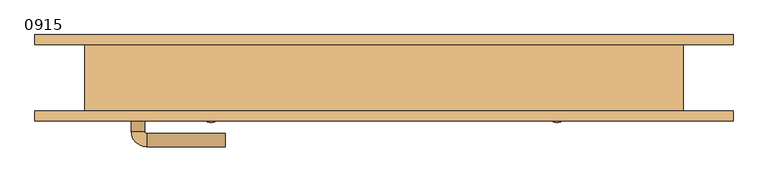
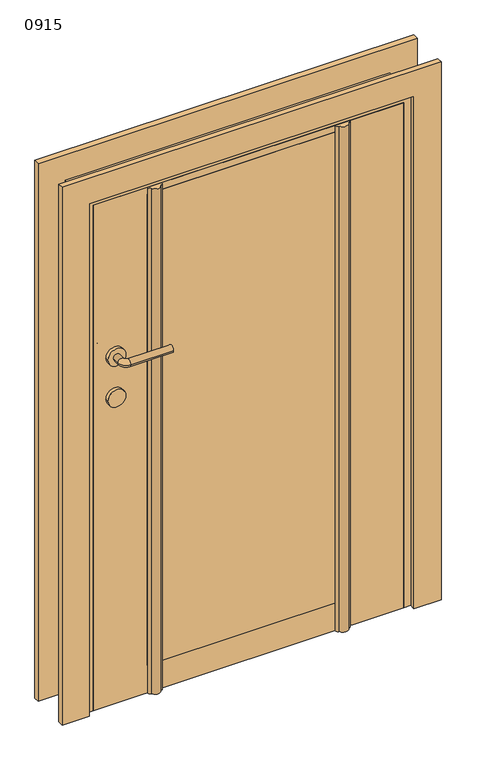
"""IFC4 building model written with IfcOpenShell, lengths in millimetres: door geometry, 单扇平开门-木门 : 0915."""

from ifc_helpers import new_model, si_unit, point, frame, frame_2d, origin, origin_with_axes, place, context, project, spatial, polyline, circle_curve, ellipse_curve, trimmed, segment, composite_curve, outline, extrude, faceted_brep, source, transform, mapped, element, save
from ifc_brep_helpers import plane_surface, cylinder_surface, revolved_surface, advanced_brep


def door_0915_0a5b4c04(model_context):
    return source(origin(), model_context, "Body", "SolidModel", [
        extrude(outline(composite_curve([segment(trimmed(circle_curve(frame_2d((900.0, -370.0)), 25.0), [point((900.0, -345.0))], [point((900.0, -395.0))], False, "CARTESIAN"), True, "CONTINUOUS"), segment(trimmed(circle_curve(frame_2d((900.0, -370.0)), 25.0), [point((900.0, -395.0))], [point((900.0, -345.0))], False, "CARTESIAN"), True, "CONTINUOUS")], self_intersect=False)), frame((0.0, -15.0, 0.0), z_axis=(0.0, 1.0, 0.0), x_axis=(0.0, 0.0, 1.0)), (0.0, 0.0, 1.0), 10.0),
        extrude(outline(composite_curve([segment(trimmed(circle_curve(frame_2d((900.0, -370.0)), 25.0), [point((900.0, -345.0))], [point((900.0, -395.0))], False, "CARTESIAN"), True, "CONTINUOUS"), segment(trimmed(circle_curve(frame_2d((900.0, -370.0)), 25.0), [point((900.0, -395.0))], [point((900.0, -345.0))], False, "CARTESIAN"), True, "CONTINUOUS")], self_intersect=False)), frame((0.0, -60.0, 0.0), z_axis=(0.0, 1.0, 0.0), x_axis=(0.0, 0.0, 1.0)), (0.0, 0.0, 1.0), 10.0),
        advanced_brep(
        [(-380.0, -5.0, 1020.0), (-360.0, -5.0, 1020.0), (-380.0, 15.613355, 1020.0), (-360.0, 15.613355, 1020.0), (-238.419036, 38.580964, 1020.0), (-238.419036, 18.580964, 1020.0), (-357.0323911, 18.580964, 1020.0), (-357.0323911, 38.580964, 1020.0)],
        [
            (0, 1, circle_curve(frame((-370.0, -5.0, 1020.0), z_axis=(0.0, -1.0, 0.0), x_axis=(1.0, 0.0, 0.0)), 10.0)),
            (1, 0, circle_curve(frame((-370.0, -5.0, 1020.0), z_axis=(0.0, -1.0, 0.0), x_axis=(1.0, 0.0, 0.0)), 10.0)),
            (0, 2),
            (2, 3, circle_curve(frame((-370.0, 15.613355, 1020.0), z_axis=(0.0, -1.0, 0.0), x_axis=(1.0, 0.0, 0.0)), 10.0)),
            (3, 1),
            (3, 2, circle_curve(frame((-370.0, 15.613355, 1020.0), z_axis=(0.0, -1.0, 0.0), x_axis=(1.0, 0.0, 0.0)), 10.0)),
            (4, 5, circle_curve(frame((-238.419036, 28.580964, 1020.0), z_axis=(1.0, 0.0, 0.0), x_axis=(0.0, -1.0, 0.0)), 10.0)),
            (5, 4, circle_curve(frame((-238.419036, 28.580964, 1020.0), z_axis=(1.0, 0.0, 0.0), x_axis=(0.0, -1.0, 0.0)), 10.0)),
            (6, 7, circle_curve(frame((-357.0323911, 28.580964, 1020.0), z_axis=(-1.0, 0.0, 0.0), x_axis=(0.0, -1.0, 0.0)), 10.0)),
            (7, 2, circle_curve(frame((-357.0323911, 15.613355, 1020.0), z_axis=(0.0, 0.0, 1.0), x_axis=(-1.0, 0.0, 0.0)), 22.9676089)),
            (3, 6, circle_curve(frame((-357.0323911, 15.613355, 1020.0), z_axis=(0.0, 0.0, -1.0), x_axis=(-1.0, 0.0, 0.0)), 2.9676089)),
            (7, 6, circle_curve(frame((-357.0323911, 28.580964, 1020.0), z_axis=(-1.0, 0.0, 0.0), x_axis=(0.0, -1.0, 0.0)), 10.0)),
            (6, 5),
            (4, 7),
        ],
        [
            plane_surface(frame((-370.0, -5.0, 900.0), z_axis=(0.0, -1.0, 0.0), x_axis=(0.0, 0.0, 1.0))),
            cylinder_surface(frame((-370.0, -5.0, 1020.0), z_axis=(0.0, -1.0, 0.0), x_axis=(1.0, 0.0, 0.0)), 10.0),
            plane_surface(frame((-238.419036, 28.580964, 900.0), z_axis=(1.0, 0.0, 0.0), x_axis=(0.0, 0.0, 1.0))),
            revolved_surface(trimmed(ellipse_curve(frame((-370.0, 15.613355, 1020.0), z_axis=(0.0, 1.0, 0.0), x_axis=(1.0, 0.0, 0.0)), 10.0, 10.0), [point((-380.0, 15.613355, 1020.0))], [point((-360.0, 15.613355, 1020.0))], True, "CARTESIAN"), (-357.0323911, 15.613355, 900.0), (0.0, 0.0, 1.0)),
            revolved_surface(trimmed(ellipse_curve(frame((-370.0, 15.613355, 1020.0), z_axis=(0.0, 1.0, 0.0), x_axis=(1.0, 0.0, 0.0)), 10.0, 10.0), [point((-360.0, 15.613355, 1020.0))], [point((-380.0, 15.613355, 1020.0))], True, "CARTESIAN"), (-357.0323911, 15.613355, 900.0), (0.0, 0.0, 1.0)),
            cylinder_surface(frame((-357.0323911, 28.580964, 1020.0), z_axis=(-1.0, 0.0, 0.0), x_axis=(0.0, -1.0, 0.0)), 10.0),
        ],
        [
            (0, [[1, 2]]),
            (1, [[3, 4, 5, -1]]),
            (1, [[-5, 6, -3, -2]]),
            (2, [[7, 8]]),
            (3, [[9, 10, -6, 11]]),
            (4, [[12, -11, -4, -10]]),
            (5, [[13, -7, 14, -9]]),
            (5, [[-14, -8, -13, -12]]),
        ],
    ),
        extrude(outline(composite_curve([segment(trimmed(circle_curve(frame_2d((1020.0, -370.0)), 25.0), [point((1020.0, -345.0))], [point((1020.0, -395.0))], False, "CARTESIAN"), True, "CONTINUOUS"), segment(trimmed(circle_curve(frame_2d((1020.0, -370.0)), 25.0), [point((1020.0, -395.0))], [point((1020.0, -345.0))], False, "CARTESIAN"), True, "CONTINUOUS")], self_intersect=False)), frame((0.0, -15.0, 0.0), z_axis=(0.0, 1.0, 0.0), x_axis=(0.0, 0.0, 1.0)), (0.0, 0.0, 1.0), 10.0),
        advanced_brep(
        [(-360.0, -60.0, 1020.0), (-380.0, -60.0, 1020.0), (-380.0, -80.6133551, 1020.0), (-360.0, -80.6133551, 1020.0), (-238.419036, -83.580964, 1020.0), (-238.419036, -103.580964, 1020.0), (-357.0323911, -103.580964, 1020.0), (-357.0323911, -83.580964, 1020.0)],
        [
            (0, 1, circle_curve(frame((-370.0, -60.0, 1020.0), z_axis=(0.0, 1.0, 0.0), x_axis=(-1.0, 0.0, 0.0)), 10.0)),
            (1, 0, circle_curve(frame((-370.0, -60.0, 1020.0), z_axis=(0.0, 1.0, 0.0), x_axis=(-1.0, 0.0, 0.0)), 10.0)),
            (1, 2),
            (2, 3, circle_curve(frame((-370.0, -80.6133551, 1020.0), z_axis=(0.0, 1.0, 0.0), x_axis=(-1.0, 0.0, 0.0)), 10.0)),
            (3, 0),
            (3, 2, circle_curve(frame((-370.0, -80.6133551, 1020.0), z_axis=(0.0, 1.0, 0.0), x_axis=(-1.0, 0.0, 0.0)), 10.0)),
            (4, 5, circle_curve(frame((-238.419036, -93.580964, 1020.0), z_axis=(1.0, 0.0, 0.0), x_axis=(0.0, -1.0, 0.0)), 10.0)),
            (5, 4, circle_curve(frame((-238.419036, -93.580964, 1020.0), z_axis=(1.0, 0.0, 0.0), x_axis=(0.0, -1.0, 0.0)), 10.0)),
            (6, 7, circle_curve(frame((-357.0323911, -93.580964, 1020.0), z_axis=(-1.0, 0.0, 0.0), x_axis=(0.0, -1.0, 0.0)), 10.0)),
            (7, 3, circle_curve(frame((-357.0323911, -80.6133551, 1020.0), z_axis=(0.0, 0.0, -1.0), x_axis=(-1.0, 0.0, 0.0)), 2.9676089)),
            (2, 6, circle_curve(frame((-357.0323911, -80.6133551, 1020.0), z_axis=(0.0, 0.0, 1.0), x_axis=(-1.0, 0.0, 0.0)), 22.9676089)),
            (7, 6, circle_curve(frame((-357.0323911, -93.580964, 1020.0), z_axis=(-1.0, 0.0, 0.0), x_axis=(0.0, -1.0, 0.0)), 10.0)),
            (6, 5),
            (4, 7),
        ],
        [
            plane_surface(frame((-370.0, -60.0, 900.0), z_axis=(0.0, 1.0, 0.0), x_axis=(0.0, 0.0, 1.0))),
            cylinder_surface(frame((-370.0, -60.0, 1020.0), z_axis=(0.0, 1.0, 0.0), x_axis=(-1.0, 0.0, 0.0)), 10.0),
            plane_surface(frame((-238.419036, -93.580964, 900.0), z_axis=(1.0, 0.0, 0.0), x_axis=(0.0, 0.0, 1.0))),
            revolved_surface(trimmed(ellipse_curve(frame((-370.0, -80.6133551, 1020.0), z_axis=(0.0, -1.0, 0.0), x_axis=(-1.0, 0.0, 0.0)), 10.0, 10.0), [point((-360.0, -80.6133551, 1020.0))], [point((-380.0, -80.6133551, 1020.0))], True, "CARTESIAN"), (-357.0323911, -80.6133551, 900.0), (0.0, 0.0, -1.0)),
            revolved_surface(trimmed(ellipse_curve(frame((-370.0, -80.6133551, 1020.0), z_axis=(0.0, -1.0, 0.0), x_axis=(-1.0, 0.0, 0.0)), 10.0, 10.0), [point((-380.0, -80.6133551, 1020.0))], [point((-360.0, -80.6133551, 1020.0))], True, "CARTESIAN"), (-357.0323911, -80.6133551, 900.0), (0.0, 0.0, -1.0)),
            cylinder_surface(frame((-357.0323911, -93.580964, 1020.0), z_axis=(-1.0, 0.0, 0.0), x_axis=(0.0, -1.0, 0.0)), 10.0),
        ],
        [
            (0, [[1, 2]]),
            (1, [[3, 4, 5, -2]]),
            (1, [[-5, 6, -3, -1]]),
            (2, [[7, 8]]),
            (3, [[9, 10, -4, 11]]),
            (4, [[12, -11, -6, -10]]),
            (5, [[13, -7, 14, -9]]),
            (5, [[-14, -8, -13, -12]]),
        ],
    ),
        extrude(outline(composite_curve([segment(trimmed(circle_curve(frame_2d((1020.0, -370.0)), 25.0), [point((1020.0, -345.0))], [point((1020.0, -395.0))], False, "CARTESIAN"), True, "CONTINUOUS"), segment(trimmed(circle_curve(frame_2d((1020.0, -370.0)), 25.0), [point((1020.0, -395.0))], [point((1020.0, -345.0))], False, "CARTESIAN"), True, "CONTINUOUS")], self_intersect=False)), frame((0.0, -60.0, 0.0), z_axis=(0.0, 1.0, 0.0), x_axis=(0.0, 0.0, 1.0)), (0.0, 0.0, 1.0), 10.0),
        extrude(outline(polyline([(1500.0, -450.0), (1500.0, 450.0), (0.0, 450.0), (0.0, 525.0), (1575.0, 525.0), (1575.0, -525.0), (0.0, -525.0), (0.0, -450.0), (1500.0, -450.0)])), frame((0.0, -65.0, 0.0), z_axis=(0.0, 1.0, 0.0), x_axis=(0.0, 0.0, 1.0)), (0.0, 0.0, 1.0), 15.0),
        extrude(outline(polyline([(1575.0, -525.0), (0.0, -525.0), (0.0, -450.0), (1500.0, -450.0), (1500.0, 450.0), (0.0, 450.0), (0.0, 525.0), (1575.0, 525.0), (1575.0, -525.0)])), frame((0.0, 50.0, 0.0), z_axis=(0.0, 1.0, 0.0), x_axis=(0.0, 0.0, 1.0)), (0.0, 0.0, 1.0), 15.0),
        extrude(outline(polyline([(1480.0, 430.0), (1480.0, -430.0), (0.0, -430.0), (0.0, 430.0), (1480.0, 430.0)]), holes=[polyline([(1460.0, 280.0), (80.0, 280.0), (80.0, -280.0), (1460.0, -280.0), (1460.0, 280.0)])]), frame((0.0, -50.0, 0.0), z_axis=(0.0, 1.0, 0.0), x_axis=(0.0, 0.0, 1.0)), (0.0, 0.0, 1.0), 35.0),
        extrude(outline(composite_curve([segment(polyline([(-280.0, -50.0), (-240.0, -50.0), (-240.0, -51.0)]), True, "CONTINUOUS"), segment(trimmed(circle_curve(frame_2d((-247.0, -51.0)), 7.0), [point((-240.0, -51.0))], [point((-247.0, -58.0))], False, "CARTESIAN"), True, "CONTINUOUS"), segment(trimmed(circle_curve(frame_2d((-260.0, -53.3201295)), 13.8166996), [point((-247.0, -58.0))], [point((-273.0, -58.0))], False, "CARTESIAN"), True, "CONTINUOUS"), segment(trimmed(circle_curve(frame_2d((-273.0, -51.0)), 7.0), [point((-273.0, -58.0))], [point((-280.0, -51.0))], False, "CARTESIAN"), True, "CONTINUOUS"), segment(polyline([(-280.0, -51.0), (-280.0, -50.0)]), True, "CONTINUOUS")], self_intersect=False)), origin_with_axes(), (0.0, 0.0, 1.0), 1480.0),
        extrude(outline(composite_curve([segment(polyline([(280.0, -50.0), (280.0, -51.0)]), True, "CONTINUOUS"), segment(trimmed(circle_curve(frame_2d((273.0, -51.0)), 7.0), [point((280.0, -51.0))], [point((273.0, -58.0))], False, "CARTESIAN"), True, "CONTINUOUS"), segment(trimmed(circle_curve(frame_2d((260.0, -53.3201295)), 13.8166996), [point((273.0, -58.0))], [point((247.0, -58.0))], False, "CARTESIAN"), True, "CONTINUOUS"), segment(trimmed(circle_curve(frame_2d((247.0, -51.0)), 7.0), [point((247.0, -58.0))], [point((240.0, -51.0))], False, "CARTESIAN"), True, "CONTINUOUS"), segment(polyline([(240.0, -51.0), (240.0, -50.0), (280.0, -50.0)]), True, "CONTINUOUS")], self_intersect=False)), origin_with_axes(), (0.0, 0.0, 1.0), 1480.0),
        extrude(outline(polyline([(280.0, -50.0), (-280.0, -50.0), (-280.0, -15.0), (280.0, -15.0), (280.0, -50.0)])), frame((0.0, 0.0, 80.0), z_axis=(0.0, 0.0, 1.0), x_axis=(1.0, 0.0, 0.0)), (0.0, 0.0, 1.0), 1380.0),
        faceted_brep([(450.0, -50.0, 0.0), (430.0, -50.0, 0.0), (430.0, -15.0, 0.0), (415.0, -15.0, 0.0), (415.0, 15.0, 0.0), (430.0, 15.0, 0.0), (430.0, 50.0, 0.0), (450.0, 50.0, 0.0), (450.0, 50.0, 1500.0), (450.0, -50.0, 1500.0), (430.0, 50.0, 1480.0), (-430.0, 50.0, 1480.0), (-430.0, 50.0, 0.0), (-450.0, 50.0, 0.0), (-450.0, 50.0, 1500.0), (430.0, 15.0, 1480.0), (415.0, 15.0, 1465.0), (-415.0, 15.0, 1465.0), (-415.0, 15.0, 0.0), (-430.0, 15.0, 0.0), (-430.0, 15.0, 1480.0), (415.0, -15.0, 1465.0), (430.0, -15.0, 1480.0), (-430.0, -15.0, 1480.0), (-430.0, -15.0, 0.0), (-415.0, -15.0, 0.0), (-415.0, -15.0, 1465.0), (430.0, -50.0, 1480.0), (-450.0, -50.0, 1500.0), (-450.0, -50.0, 0.0), (-430.0, -50.0, 0.0), (-430.0, -50.0, 1480.0)], [[[0, 1, 2, 3, 4, 5, 6, 7]], [[7, 8, 9, 0]], [[6, 10, 11, 12, 13, 14, 8, 7]], [[5, 15, 10, 6]], [[4, 16, 17, 18, 19, 20, 15, 5]], [[3, 21, 16, 4]], [[2, 22, 23, 24, 25, 26, 21, 3]], [[1, 27, 22, 2]], [[0, 9, 28, 29, 30, 31, 27, 1]], [[8, 14, 28, 9]], [[15, 20, 11, 10]], [[21, 26, 17, 16]], [[27, 31, 23, 22]], [[29, 13, 12, 19, 18, 25, 24, 30]], [[14, 13, 29, 28]], [[20, 19, 12, 11]], [[26, 25, 18, 17]], [[31, 30, 24, 23]]]),
    ])


if __name__ == "__main__":
    model = new_model("IFC4")
    model_context = context("Model", 3, world=origin())
    ifc_project = project(units=[si_unit("LENGTHUNIT", "METRE", prefix="MILLI")], contexts=[model_context])
    site = spatial("IfcSite", under=ifc_project)
    building = spatial("IfcBuilding", under=site)
    placement = place(None, origin())
    door_0915_shape = door_0915_0a5b4c04(model_context)
    element("IfcDoor", 1, ObjectType="单扇平开门-木门 : 0915", at=placement, inside=building, context=model_context, shape_type="MappedRepresentation", body=[
        mapped(door_0915_shape, transform((0.0, 0.0, 0.0), x_axis=(1.0, 0.0, 0.0), y_axis=(0.0, 1.0, 0.0), z_axis=(0.0, 0.0, 1.0))),
    ])
    save(model, "model.ifc")
